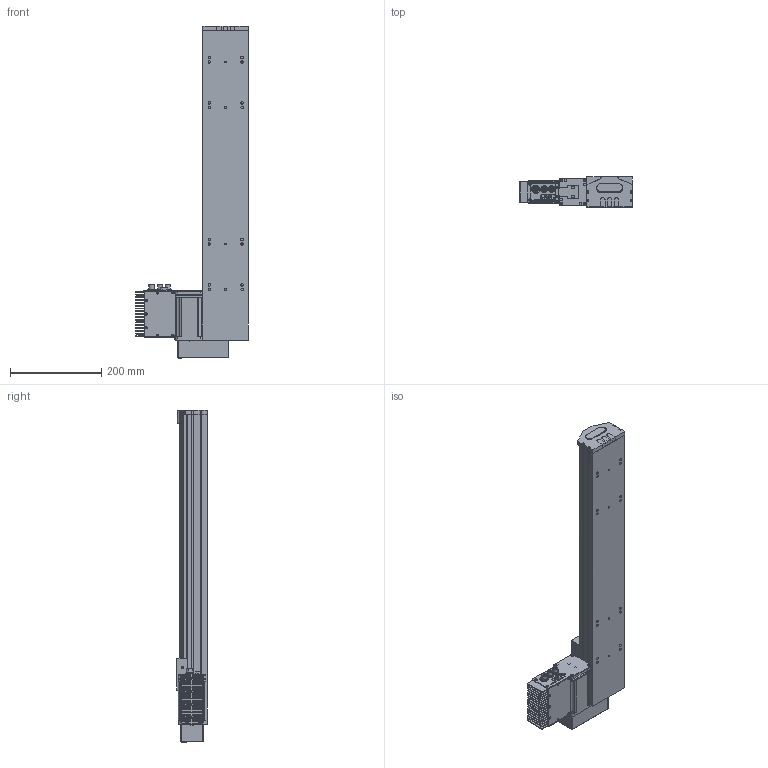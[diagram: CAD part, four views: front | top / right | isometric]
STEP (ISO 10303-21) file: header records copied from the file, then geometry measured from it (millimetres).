
FILE_DESCRIPTION (( 'STEP AP203' ), '1' );
FILE_NAME ('S10 TSN BL S500.STEP', '2012-08-31T14:24:35', ( 'Conseil Régional Haute-Normandie' ), ( 'Conseil Régional Haute-Normandie' ), 'SwSTEP 2.0', 'SolidWorks 2010', '' );
FILE_SCHEMA (( 'CONFIG_CONTROL_DESIGN' ));
Length unit declared in the file: millimetre
Products named in the file (25): BU41 Carte Alimentation P05_3; T_X2_00F4_X0_le contre le moteur_5; Connecteur rond D10 3cts_5; T_X2_00F4_X0_le fond_3; remplir_Default; S10 TSN BL S500; Assem1_7; Colonnette_3; BU45 Carte d''axe A11_5; Moteur 60BLDC90A_3; Couvercle_3; Connecteur rond D12 4cts_5; Sub D 9cts 90_X2_00B_X0__3; Radiateur profil_X2_00E9_X0_ 100x25_3; Colonnette ronde_3; T_X2_00F4_X0_le Arri_X2_00E8_X0_re_5; T_X2_00F4_X0_le lat_X2_00E9_X0_rale_5; Vis TF 3 torkx_1_1; axe687; palette tbn; renvoi LH_Default; piece_plastique remplie_Default; embout_modifié; Pièce2_Default; Vis TF 3 torkx
Assembly tree (55 placements, depth 3):
  S10 TSN BL S500
    palette tbn
    Vis TF 3 torkx  x7
    piece_plastique remplie_Default
      remplir_Default  x3
      Pièce2_Default
      embout_modifié
    Assem1_7
      Moteur 60BLDC90A_3
      T_X2_00F4_X0_le lat_X2_00E9_X0_rale_5  x2
      Couvercle_3
      BU41 Carte Alimentation P05_3
      Vis TF 3 torkx_1_1  x21
      Connecteur rond D10 3cts_5  x2
      Sub D 9cts 90_X2_00B_X0__3
      Radiateur profil_X2_00E9_X0_ 100x25_3
      Colonnette ronde_3
      T_X2_00F4_X0_le Arri_X2_00E8_X0_re_5
      Colonnette_3  x2
      T_X2_00F4_X0_le contre le moteur_5
      BU45 Carte d''axe A11_5
      T_X2_00F4_X0_le fond_3
      Connecteur rond D12 4cts_5
    renvoi LH_Default
    axe687
Bounding box: 248 x 66.75 x 729.5 mm (x, y, z)
Volume: 4254898.2 mm3; surface area: 600323.1 mm2
Topology: 53 solids, 53 shells, 1962 faces, 4992 edges, 3254 vertices
Faces by surface type: plane 926, cylinder 873, cone 156, bspline 4, torus 3
Entity records: 38527 total; most frequent: CARTESIAN_POINT 6508, DIRECTION 6263, ORIENTED_EDGE 5692, EDGE_CURVE 2846, AXIS2_PLACEMENT_3D 2298, VERTEX_POINT 1866, LINE 1667, VECTOR 1667
